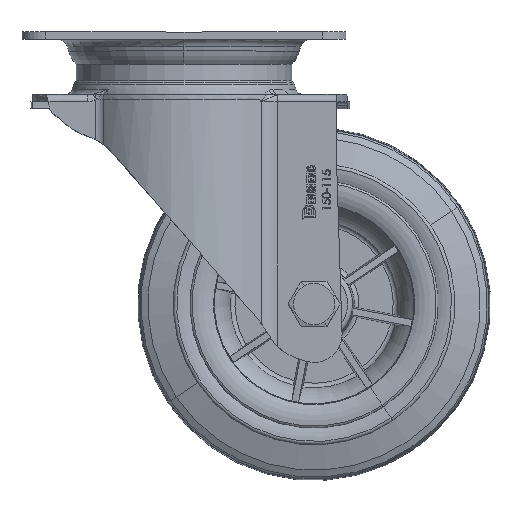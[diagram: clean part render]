
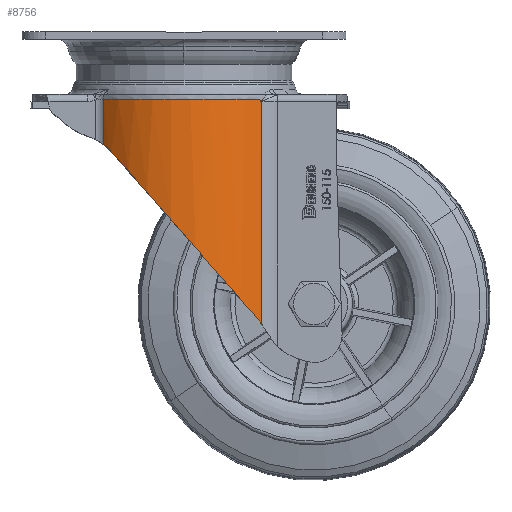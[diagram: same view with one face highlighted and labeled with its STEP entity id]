
A CAD part, top view. The second image highlights one B-rep face of the part: STEP entity #8756.
In plain terms, the highlighted cylindrical face has radius 48 mm (diameter 96 mm), a partial arc.
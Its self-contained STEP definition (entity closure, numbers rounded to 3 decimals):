
#67 = CYLINDRICAL_SURFACE ( 'NONE', #13408, 48. ) ;
#946 = CARTESIAN_POINT ( 'NONE',  ( -33.965, -21.167, 33.917 ) ) ;
#1006 = CARTESIAN_POINT ( 'NONE',  ( 32.708, -96.935, 35.131 ) ) ;
#1179 = CIRCLE ( 'NONE', #19017, 48. ) ;
#1198 = VERTEX_POINT ( 'NONE', #23535 ) ;
#1231 = DIRECTION ( 'NONE',  ( 1., 0., 0. ) ) ;
#1446 = CARTESIAN_POINT ( 'NONE',  ( 0., -2.02, 0. ) ) ;
#4138 = CARTESIAN_POINT ( 'NONE',  ( 32.185, -96.152, 35.612 ) ) ;
#5409 =( BOUNDED_CURVE ( )  B_SPLINE_CURVE ( 3, ( #5980, #6204, #31324, #24424 ),
 .UNSPECIFIED., .F., .T. ) 
 B_SPLINE_CURVE_WITH_KNOTS ( ( 4, 4 ),
 ( 3.985, 5.402 ),
 .UNSPECIFIED. ) 
 CURVE ( )  GEOMETRIC_REPRESENTATION_ITEM ( )  RATIONAL_B_SPLINE_CURVE ( ( 1., 0.84, 0.84, 1. ) ) 
 REPRESENTATION_ITEM ( '' )  );
#5688 = ORIENTED_EDGE ( 'NONE', *, *, #11261, .F. ) ;
#5980 = CARTESIAN_POINT ( 'NONE',  ( 31.92, -95.755, 35.849 ) ) ;
#6064 = VERTEX_POINT ( 'NONE', #16974 ) ;
#6133 = CARTESIAN_POINT ( 'NONE',  ( -33.965, 3.014, 33.917 ) ) ;
#6204 = CARTESIAN_POINT ( 'NONE',  ( 13.399, -74.581, 52.339 ) ) ;
#7071 = CARTESIAN_POINT ( 'NONE',  ( 32.448, -96.545, 35.373 ) ) ;
#8092 = CARTESIAN_POINT ( 'NONE',  ( 32.461, -2.797, 35.36 ) ) ;
#8756 = ADVANCED_FACE ( 'NONE', ( #27063 ), #67, .T. ) ;
#8887 = VERTEX_POINT ( 'NONE', #946 ) ;
#9708 = ORIENTED_EDGE ( 'NONE', *, *, #34893, .T. ) ;
#9779 = ORIENTED_EDGE ( 'NONE', *, *, #40075, .T. ) ;
#10201 = CARTESIAN_POINT ( 'NONE',  ( 32.708, 3.014, 35.131 ) ) ;
#10340 = EDGE_CURVE ( 'NONE', #8887, #6064, #37006, .T. ) ;
#11057 = CARTESIAN_POINT ( 'NONE',  ( 32.708, -96.935, 35.131 ) ) ;
#11160 = ORIENTED_EDGE ( 'NONE', *, *, #10340, .T. ) ;
#11261 = EDGE_CURVE ( 'NONE', #15652, #6064, #5409, .T. ) ;
#12778 = B_SPLINE_CURVE_WITH_KNOTS ( 'NONE', 3,
 ( #19136, #32066, #22702, #28710, #42119, #38752 ),
 .UNSPECIFIED., .F., .F.,
 ( 4, 2, 4 ),
 ( 0., 0., 0.001 ),
 .UNSPECIFIED. ) ;
#12836 = ORIENTED_EDGE ( 'NONE', *, *, #23704, .T. ) ;
#12899 = ORIENTED_EDGE ( 'NONE', *, *, #43870, .F. ) ;
#13243 = CARTESIAN_POINT ( 'NONE',  ( 0., 3.014, 0. ) ) ;
#13408 = AXIS2_PLACEMENT_3D ( 'NONE', #13243, #26837, #40676 ) ;
#13570 = B_SPLINE_CURVE_WITH_KNOTS ( 'NONE', 3,
 ( #42632, #15644, #25668, #36150 ),
 .UNSPECIFIED., .F., .F.,
 ( 4, 4 ),
 ( 0., 0. ),
 .UNSPECIFIED. ) ;
#13977 = VECTOR ( 'NONE', #13988, 1000. ) ;
#13988 = DIRECTION ( 'NONE',  ( 0., 1., 0. ) ) ;
#14171 = ORIENTED_EDGE ( 'NONE', *, *, #40890, .F. ) ;
#15032 = CARTESIAN_POINT ( 'NONE',  ( 32.708, -3., 35.131 ) ) ;
#15364 = CARTESIAN_POINT ( 'NONE',  ( -33.965, -2.02, 33.917 ) ) ;
#15644 = CARTESIAN_POINT ( 'NONE',  ( 32.626, -2.932, 35.208 ) ) ;
#15652 = VERTEX_POINT ( 'NONE', #37789 ) ;
#16974 = CARTESIAN_POINT ( 'NONE',  ( -30.529, -24.359, 37.04 ) ) ;
#17530 = CARTESIAN_POINT ( 'NONE',  ( 31.92, -95.755, 35.849 ) ) ;
#19017 = AXIS2_PLACEMENT_3D ( 'NONE', #1446, #22420, #1231 ) ;
#19136 = CARTESIAN_POINT ( 'NONE',  ( 32.461, -2.797, 35.36 ) ) ;
#20341 = VECTOR ( 'NONE', #33336, 1000. ) ;
#22235 = EDGE_LOOP ( 'NONE', ( #5688, #14171, #9779, #12836, #9708, #12899, #31075, #11160 ) ) ;
#22420 = DIRECTION ( 'NONE',  ( 0., 1., 0. ) ) ;
#22702 = CARTESIAN_POINT ( 'NONE',  ( 32.272, -2.583, 35.532 ) ) ;
#23356 = CARTESIAN_POINT ( 'NONE',  ( -32.775, -22.062, 35.109 ) ) ;
#23535 = CARTESIAN_POINT ( 'NONE',  ( 32.014, -2.02, 35.765 ) ) ;
#23704 = EDGE_CURVE ( 'NONE', #37444, #38237, #13570, .T. ) ;
#24424 = CARTESIAN_POINT ( 'NONE',  ( -30.529, -24.359, 37.04 ) ) ;
#25668 = CARTESIAN_POINT ( 'NONE',  ( 32.543, -2.865, 35.284 ) ) ;
#26837 = DIRECTION ( 'NONE',  ( 0., 1., 0. ) ) ;
#27063 = FACE_OUTER_BOUND ( 'NONE', #22235, .T. ) ;
#28710 = CARTESIAN_POINT ( 'NONE',  ( 32.131, -2.312, 35.66 ) ) ;
#29344 = EDGE_CURVE ( 'NONE', #36754, #8887, #37124, .T. ) ;
#30478 = CARTESIAN_POINT ( 'NONE',  ( -31.614, -23.119, 36.146 ) ) ;
#31075 = ORIENTED_EDGE ( 'NONE', *, *, #29344, .T. ) ;
#31324 = CARTESIAN_POINT ( 'NONE',  ( -11.394, -46.236, 52.812 ) ) ;
#32066 = CARTESIAN_POINT ( 'NONE',  ( 32.355, -2.711, 35.457 ) ) ;
#33336 = DIRECTION ( 'NONE',  ( 0., -1., 0. ) ) ;
#33917 =( BOUNDED_CURVE ( )  B_SPLINE_CURVE ( 3, ( #11057, #7071, #4138, #17530 ),
 .UNSPECIFIED., .F., .T. ) 
 B_SPLINE_CURVE_WITH_KNOTS ( ( 4, 4 ),
 ( 3.963, 3.985 ),
 .UNSPECIFIED. ) 
 CURVE ( )  GEOMETRIC_REPRESENTATION_ITEM ( )  RATIONAL_B_SPLINE_CURVE ( ( 1., 1., 1., 1. ) ) 
 REPRESENTATION_ITEM ( '' )  );
#34893 = EDGE_CURVE ( 'NONE', #38237, #1198, #12778, .T. ) ;
#36150 = CARTESIAN_POINT ( 'NONE',  ( 32.461, -2.797, 35.36 ) ) ;
#36754 = VERTEX_POINT ( 'NONE', #15364 ) ;
#37006 = B_SPLINE_CURVE_WITH_KNOTS ( 'NONE', 3,
 ( #40302, #23356, #30478, #44100 ),
 .UNSPECIFIED., .F., .F.,
 ( 4, 4 ),
 ( 0.011, 0.017 ),
 .UNSPECIFIED. ) ;
#37124 = LINE ( 'NONE', #6133, #20341 ) ;
#37444 = VERTEX_POINT ( 'NONE', #15032 ) ;
#37789 = CARTESIAN_POINT ( 'NONE',  ( 31.92, -95.755, 35.849 ) ) ;
#38053 = LINE ( 'NONE', #10201, #13977 ) ;
#38237 = VERTEX_POINT ( 'NONE', #8092 ) ;
#38752 = CARTESIAN_POINT ( 'NONE',  ( 32.014, -2.02, 35.765 ) ) ;
#40075 = EDGE_CURVE ( 'NONE', #41055, #37444, #38053, .T. ) ;
#40302 = CARTESIAN_POINT ( 'NONE',  ( -33.965, -21.167, 33.917 ) ) ;
#40676 = DIRECTION ( 'NONE',  ( 1., 0., 0. ) ) ;
#40890 = EDGE_CURVE ( 'NONE', #41055, #15652, #33917, .T. ) ;
#41055 = VERTEX_POINT ( 'NONE', #1006 ) ;
#42119 = CARTESIAN_POINT ( 'NONE',  ( 32.071, -2.167, 35.713 ) ) ;
#42632 = CARTESIAN_POINT ( 'NONE',  ( 32.708, -3., 35.131 ) ) ;
#43870 = EDGE_CURVE ( 'NONE', #36754, #1198, #1179, .T. ) ;
#44100 = CARTESIAN_POINT ( 'NONE',  ( -30.529, -24.359, 37.04 ) ) ;
